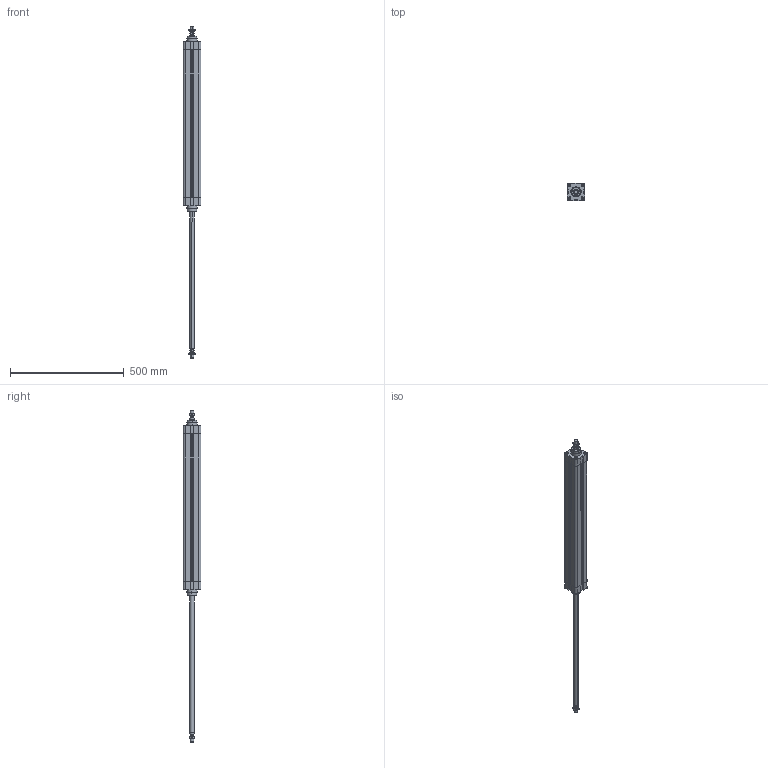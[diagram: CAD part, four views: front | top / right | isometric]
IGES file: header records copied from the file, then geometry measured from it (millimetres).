
Global section: file name: No Iges File Name specified; native system: Autodesk Inventor 2010; preprocessor: AutoDesk Inventor Iges Exporter R2010; author: rivolro1; date: 20090707.105826; units: millimetre
Bounding box: 77.5 x 77.5 x 1459 mm (x, y, z)
Volume: 2732341.9 mm3; surface area: 543343.9 mm2
Topology: 6 solids, 6 shells, 343 faces, 810 edges, 508 vertices
Faces by surface type: plane 137, bspline 86, cylinder 58, cone 38, revolution 20, torus 4
